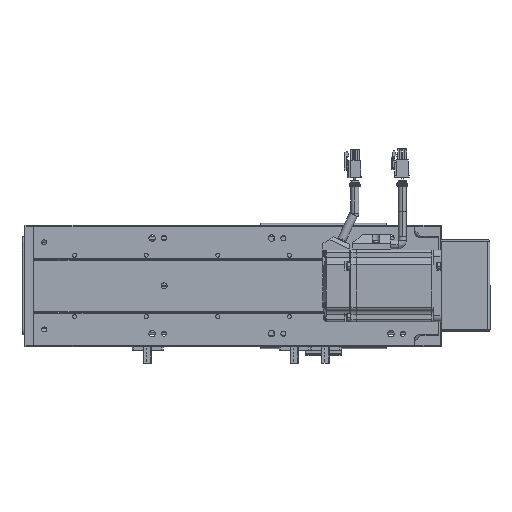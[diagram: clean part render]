
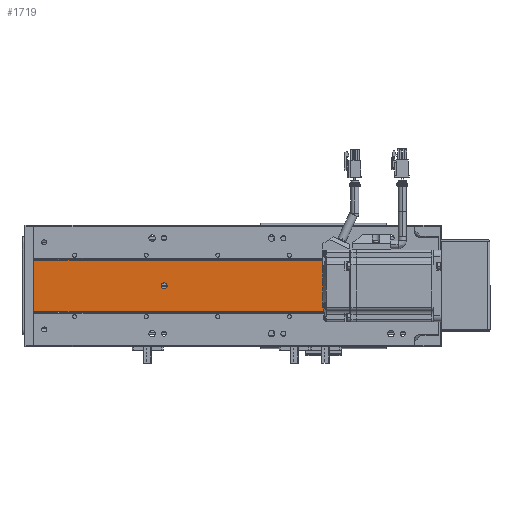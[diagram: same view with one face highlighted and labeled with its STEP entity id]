
A CAD part, front view. The second image highlights one B-rep face of the part: STEP entity #1719.
In plain terms, the highlighted planar face has unit normal (0, -1, 0).
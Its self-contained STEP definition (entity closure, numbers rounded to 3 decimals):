
#80 = DIRECTION ( 'NONE',  ( 0., 1., 0. ) ) ;
#88 = CARTESIAN_POINT ( 'NONE',  ( 165.403, 89.548, 323. ) ) ;
#101 = DIRECTION ( 'NONE',  ( -1., 0., 0. ) ) ;
#161 = CARTESIAN_POINT ( 'NONE',  ( 165.403, 89.548, 333. ) ) ;
#175 = DIRECTION ( 'NONE',  ( -1., 0., 0. ) ) ;
#197 = DIRECTION ( 'NONE',  ( 0., 1., 0. ) ) ;
#446 = DIRECTION ( 'NONE',  ( 1., 0., 0. ) ) ;
#470 = DIRECTION ( 'NONE',  ( 0., -1., 0. ) ) ;
#471 = CARTESIAN_POINT ( 'NONE',  ( 140.403, 89.548, 309. ) ) ;
#569 = DIRECTION ( 'NONE',  ( 0., -1., 0. ) ) ;
#576 = CARTESIAN_POINT ( 'NONE',  ( 140.403, 89.548, 109. ) ) ;
#583 = DIRECTION ( 'NONE',  ( 1., 0., 0. ) ) ;
#766 = CARTESIAN_POINT ( 'NONE',  ( 161.989, 89.548, 339. ) ) ;
#777 = DIRECTION ( 'NONE',  ( 0., 0., -1. ) ) ;
#781 = CARTESIAN_POINT ( 'NONE',  ( 118.817, 89.548, 339. ) ) ;
#789 = CARTESIAN_POINT ( 'NONE',  ( 118.817, 89.548, 339. ) ) ;
#796 = DIRECTION ( 'NONE',  ( 0., 0., -1. ) ) ;
#801 = DIRECTION ( 'NONE',  ( 0., 0., -1. ) ) ;
#1719 = ADVANCED_FACE ( 'NONE', ( #77287, #77293, #77309 ), #72877, .F. ) ;
#12683 = ORIENTED_EDGE ( 'NONE', *, *, #50807, .F. ) ;
#12717 = ORIENTED_EDGE ( 'NONE', *, *, #26509, .F. ) ;
#13349 = ORIENTED_EDGE ( 'NONE', *, *, #26753, .T. ) ;
#13354 = ORIENTED_EDGE ( 'NONE', *, *, #50901, .F. ) ;
#13385 = ORIENTED_EDGE ( 'NONE', *, *, #26581, .F. ) ;
#13401 = ORIENTED_EDGE ( 'NONE', *, *, #26433, .T. ) ;
#13402 = ORIENTED_EDGE ( 'NONE', *, *, #26727, .F. ) ;
#13403 = ORIENTED_EDGE ( 'NONE', *, *, #51027, .T. ) ;
#13404 = ORIENTED_EDGE ( 'NONE', *, *, #50920, .T. ) ;
#13409 = ORIENTED_EDGE ( 'NONE', *, *, #26989, .F. ) ;
#13430 = ORIENTED_EDGE ( 'NONE', *, *, #26729, .T. ) ;
#13432 = ORIENTED_EDGE ( 'NONE', *, *, #26414, .T. ) ;
#13438 = ORIENTED_EDGE ( 'NONE', *, *, #50961, .T. ) ;
#13451 = ORIENTED_EDGE ( 'NONE', *, *, #26856, .F. ) ;
#13455 = ORIENTED_EDGE ( 'NONE', *, *, #50905, .T. ) ;
#18313 = CIRCLE ( 'NONE', #57148, 2.5 ) ;
#18320 = CIRCLE ( 'NONE', #57112, 2.5 ) ;
#18386 = LINE ( 'NONE', #20872, #18412 ) ;
#18412 = VECTOR ( 'NONE', #20811, 1000. ) ;
#18429 = LINE ( 'NONE', #20805, #18432 ) ;
#18432 = VECTOR ( 'NONE', #20869, 1000. ) ;
#18453 = CIRCLE ( 'NONE', #57119, 4.75 ) ;
#18492 = LINE ( 'NONE', #21111, #18493 ) ;
#18493 = VECTOR ( 'NONE', #21160, 1000. ) ;
#18555 = CIRCLE ( 'NONE', #57210, 4.75 ) ;
#20379 = DIRECTION ( 'NONE',  ( 0., -1., 0. ) ) ;
#20442 = CARTESIAN_POINT ( 'NONE',  ( 140.403, 89.548, 109. ) ) ;
#20454 = CARTESIAN_POINT ( 'NONE',  ( 140.403, 89.548, 309. ) ) ;
#20469 = DIRECTION ( 'NONE',  ( 1., 0., 0. ) ) ;
#20510 = DIRECTION ( 'NONE',  ( 1., 0., 0. ) ) ;
#20541 = DIRECTION ( 'NONE',  ( 0., -1., 0. ) ) ;
#20805 = CARTESIAN_POINT ( 'NONE',  ( 161.989, 89.548, 339. ) ) ;
#20811 = DIRECTION ( 'NONE',  ( 0., 0., -1. ) ) ;
#20869 = DIRECTION ( 'NONE',  ( 0., 0., -1. ) ) ;
#20872 = CARTESIAN_POINT ( 'NONE',  ( 118.817, 89.548, 339. ) ) ;
#20952 = DIRECTION ( 'NONE',  ( -1., 0., 0. ) ) ;
#21004 = CARTESIAN_POINT ( 'NONE',  ( 115.403, 89.548, 333. ) ) ;
#21008 = DIRECTION ( 'NONE',  ( 0., 1., 0. ) ) ;
#21111 = CARTESIAN_POINT ( 'NONE',  ( 161.989, 89.548, 0. ) ) ;
#21160 = DIRECTION ( 'NONE',  ( 1., 0., 0. ) ) ;
#21378 = DIRECTION ( 'NONE',  ( -1., 0., 0. ) ) ;
#21504 = DIRECTION ( 'NONE',  ( 0., 1., 0. ) ) ;
#21522 = CARTESIAN_POINT ( 'NONE',  ( 115.403, 89.548, 323. ) ) ;
#26414 = EDGE_CURVE ( 'NONE', #96332, #96273, #39241, .T. ) ;
#26433 = EDGE_CURVE ( 'NONE', #96250, #96262, #39311, .T. ) ;
#26509 = EDGE_CURVE ( 'NONE', #96426, #96419, #39381, .T. ) ;
#26581 = EDGE_CURVE ( 'NONE', #96387, #96388, #39410, .T. ) ;
#26727 = EDGE_CURVE ( 'NONE', #96250, #96273, #39546, .T. ) ;
#26729 = EDGE_CURVE ( 'NONE', #96499, #96465, #39561, .T. ) ;
#26753 = EDGE_CURVE ( 'NONE', #96545, #96525, #39550, .T. ) ;
#26856 = EDGE_CURVE ( 'NONE', #96332, #96459, #39613, .T. ) ;
#26989 = EDGE_CURVE ( 'NONE', #96498, #96541, #39672, .T. ) ;
#31462 = EDGE_LOOP ( 'NONE', ( #86072, #12717 ) ) ;
#31527 = EDGE_LOOP ( 'NONE', ( #13402, #13401, #13354, #13409, #13455, #13404, #13430, #13403, #13349, #13438, #13451, #13432 ) ) ;
#31530 = EDGE_LOOP ( 'NONE', ( #12683, #13385 ) ) ;
#36030 = AXIS2_PLACEMENT_3D ( 'NONE', #88, #80, #101 ) ;
#36034 = AXIS2_PLACEMENT_3D ( 'NONE', #161, #197, #175 ) ;
#36076 = AXIS2_PLACEMENT_3D ( 'NONE', #471, #470, #446 ) ;
#36080 = AXIS2_PLACEMENT_3D ( 'NONE', #576, #569, #583 ) ;
#39241 = CIRCLE ( 'NONE', #36030, 4.75 ) ;
#39311 = CIRCLE ( 'NONE', #36034, 4.75 ) ;
#39381 = CIRCLE ( 'NONE', #36076, 2.5 ) ;
#39410 = CIRCLE ( 'NONE', #36080, 2.5 ) ;
#39535 = VECTOR ( 'NONE', #777, 1000. ) ;
#39546 = LINE ( 'NONE', #766, #39558 ) ;
#39550 = LINE ( 'NONE', #781, #39535 ) ;
#39558 = VECTOR ( 'NONE', #801, 1000. ) ;
#39561 = LINE ( 'NONE', #789, #39583 ) ;
#39583 = VECTOR ( 'NONE', #796, 1000. ) ;
#39613 = LINE ( 'NONE', #92720, #39644 ) ;
#39644 = VECTOR ( 'NONE', #92704, 1000. ) ;
#39672 = LINE ( 'NONE', #92937, #39701 ) ;
#39701 = VECTOR ( 'NONE', #92935, 1000. ) ;
#49196 = AXIS2_PLACEMENT_3D ( 'NONE', #72906, #72883, #72899 ) ;
#50807 = EDGE_CURVE ( 'NONE', #96388, #96387, #18320, .T. ) ;
#50832 = EDGE_CURVE ( 'NONE', #96419, #96426, #18313, .T. ) ;
#50901 = EDGE_CURVE ( 'NONE', #96541, #96262, #18429, .T. ) ;
#50905 = EDGE_CURVE ( 'NONE', #96498, #74895, #18386, .T. ) ;
#50920 = EDGE_CURVE ( 'NONE', #74895, #96499, #18453, .T. ) ;
#50961 = EDGE_CURVE ( 'NONE', #96525, #96459, #18492, .T. ) ;
#51027 = EDGE_CURVE ( 'NONE', #96465, #96545, #18555, .T. ) ;
#57112 = AXIS2_PLACEMENT_3D ( 'NONE', #20442, #20379, #20469 ) ;
#57119 = AXIS2_PLACEMENT_3D ( 'NONE', #21004, #21008, #20952 ) ;
#57148 = AXIS2_PLACEMENT_3D ( 'NONE', #20454, #20541, #20510 ) ;
#57210 = AXIS2_PLACEMENT_3D ( 'NONE', #21522, #21504, #21378 ) ;
#59427 = CARTESIAN_POINT ( 'NONE',  ( 118.817, 89.548, 336.302 ) ) ;
#67288 = CARTESIAN_POINT ( 'NONE',  ( 137.903, 89.548, 109. ) ) ;
#67328 = CARTESIAN_POINT ( 'NONE',  ( 161.989, 89.548, 319.698 ) ) ;
#67385 = CARTESIAN_POINT ( 'NONE',  ( 142.903, 89.548, 109. ) ) ;
#68130 = CARTESIAN_POINT ( 'NONE',  ( 161.989, 89.548, 336.302 ) ) ;
#68144 = CARTESIAN_POINT ( 'NONE',  ( 161.989, 89.548, 329.698 ) ) ;
#68195 = CARTESIAN_POINT ( 'NONE',  ( 161.989, 89.548, 326.302 ) ) ;
#71093 = CARTESIAN_POINT ( 'NONE',  ( 142.903, 89.548, 309. ) ) ;
#71096 = CARTESIAN_POINT ( 'NONE',  ( 137.903, 89.548, 309. ) ) ;
#71133 = CARTESIAN_POINT ( 'NONE',  ( 118.817, 89.548, 326.302 ) ) ;
#71137 = CARTESIAN_POINT ( 'NONE',  ( 118.817, 89.548, 329.698 ) ) ;
#71182 = CARTESIAN_POINT ( 'NONE',  ( 118.817, 89.548, 339. ) ) ;
#71185 = CARTESIAN_POINT ( 'NONE',  ( 161.989, 89.548, 0. ) ) ;
#71220 = CARTESIAN_POINT ( 'NONE',  ( 161.989, 89.548, 339. ) ) ;
#71221 = CARTESIAN_POINT ( 'NONE',  ( 118.817, 89.548, 319.698 ) ) ;
#71235 = CARTESIAN_POINT ( 'NONE',  ( 118.817, 89.548, 0. ) ) ;
#72877 = PLANE ( 'NONE',  #49196 ) ;
#72883 = DIRECTION ( 'NONE',  ( 0., 1., 0. ) ) ;
#72899 = DIRECTION ( 'NONE',  ( -1., 0., 0. ) ) ;
#72906 = CARTESIAN_POINT ( 'NONE',  ( 161.989, 89.548, 339. ) ) ;
#74895 = VERTEX_POINT ( 'NONE', #59427 ) ;
#77287 = FACE_BOUND ( 'NONE', #31462, .T. ) ;
#77293 = FACE_BOUND ( 'NONE', #31530, .T. ) ;
#77309 = FACE_OUTER_BOUND ( 'NONE', #31527, .T. ) ;
#86072 = ORIENTED_EDGE ( 'NONE', *, *, #50832, .F. ) ;
#92704 = DIRECTION ( 'NONE',  ( 0., 0., -1. ) ) ;
#92720 = CARTESIAN_POINT ( 'NONE',  ( 161.989, 89.548, 339. ) ) ;
#92935 = DIRECTION ( 'NONE',  ( 1., 0., 0. ) ) ;
#92937 = CARTESIAN_POINT ( 'NONE',  ( 161.989, 89.548, 339. ) ) ;
#96250 = VERTEX_POINT ( 'NONE', #68144 ) ;
#96262 = VERTEX_POINT ( 'NONE', #68130 ) ;
#96273 = VERTEX_POINT ( 'NONE', #68195 ) ;
#96332 = VERTEX_POINT ( 'NONE', #67328 ) ;
#96387 = VERTEX_POINT ( 'NONE', #67288 ) ;
#96388 = VERTEX_POINT ( 'NONE', #67385 ) ;
#96419 = VERTEX_POINT ( 'NONE', #71093 ) ;
#96426 = VERTEX_POINT ( 'NONE', #71096 ) ;
#96459 = VERTEX_POINT ( 'NONE', #71185 ) ;
#96465 = VERTEX_POINT ( 'NONE', #71133 ) ;
#96498 = VERTEX_POINT ( 'NONE', #71182 ) ;
#96499 = VERTEX_POINT ( 'NONE', #71137 ) ;
#96525 = VERTEX_POINT ( 'NONE', #71235 ) ;
#96541 = VERTEX_POINT ( 'NONE', #71220 ) ;
#96545 = VERTEX_POINT ( 'NONE', #71221 ) ;
